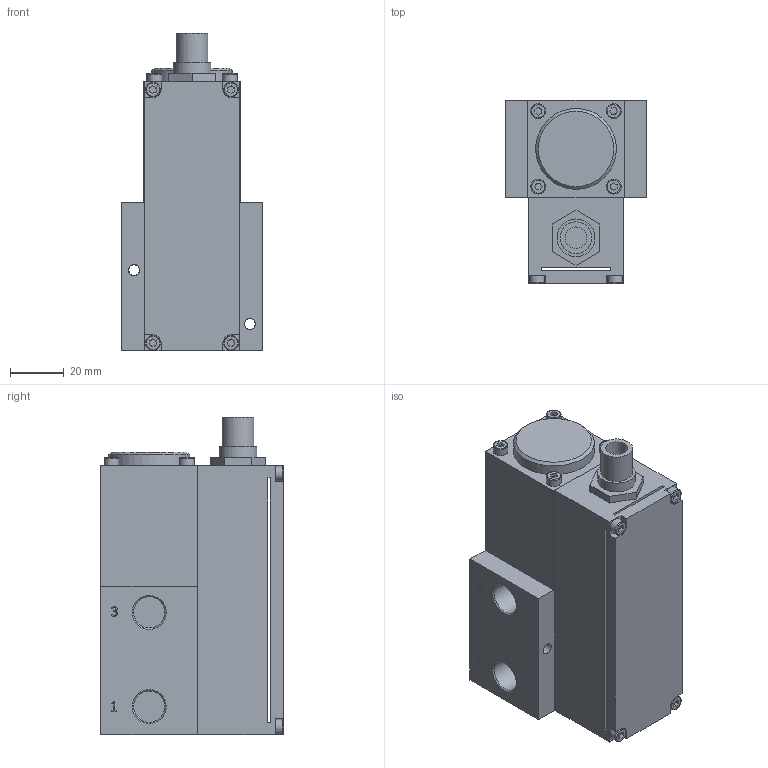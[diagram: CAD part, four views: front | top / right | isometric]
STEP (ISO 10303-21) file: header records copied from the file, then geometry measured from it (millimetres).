
FILE_DESCRIPTION(/* description */ (''),/* implementation_level */ '2;1');
FILE_NAME(/* name */ 'B-PP000.step',/* time_stamp */ '2024-01-18T14:02:20+01:00',/* author */ (''),/* organization */ (''),/* preprocessor_version */ 'ST-DEVELOPER v20',/* originating_system */ 'Autodesk Translation Framework v12.14.0.127',/* authorisation */ '');
FILE_SCHEMA (('AUTOMOTIVE_DESIGN { 1 0 10303 214 3 1 1 }'));
Length unit declared in the file: millimetre
Products named in the file (3): (Nicht gespeichert); B-PP000-1000; ISO 4762 M3 x 5
Assembly tree (9 placements, depth 2):
  (Nicht gespeichert)
    B-PP000-1000
    ISO 4762 M3 x 5  x8
Bounding box: 52 x 67.8 x 118 mm (x, y, z)
Volume: 268725.8 mm3; surface area: 53327.2 mm2
Topology: 12 solids, 12 shells, 286 faces, 687 edges, 456 vertices
Faces by surface type: plane 169, cylinder 48, bspline 31, cone 22, torus 16
Full cylindrical faces by diameter (mm): 2 x2, 3 x17, 3.2 x4, 4 x2, 4.2 x2, 5.5 x8, 8 x1, 11.6 x3, 11.8 x1, 14 x1, 25 x1, 25.1 x1, 30 x1
Entity records: 5592 total; most frequent: CARTESIAN_POINT 1332, ORIENTED_EDGE 868, DIRECTION 771, EDGE_CURVE 434, VERTEX_POINT 288, LINE 283, VECTOR 283, AXIS2_PLACEMENT_3D 244
